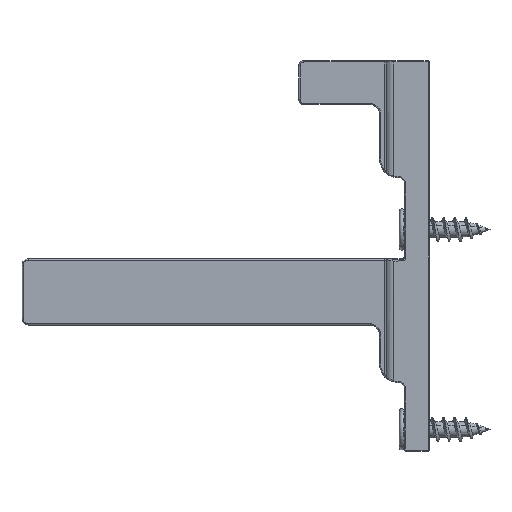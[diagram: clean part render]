
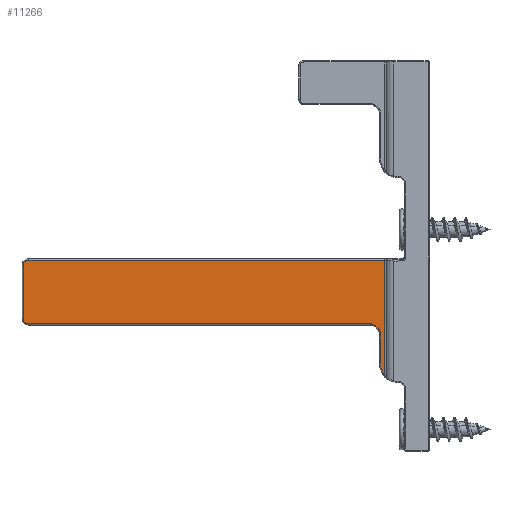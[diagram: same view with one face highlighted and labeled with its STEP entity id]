
A CAD part, left-side view. The second image highlights one B-rep face of the part: STEP entity #11266.
In plain terms, the highlighted planar face has unit normal (-1, 0, 0).
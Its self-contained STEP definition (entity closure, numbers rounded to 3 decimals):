
#92 = CARTESIAN_POINT ( 'NONE',  ( -2.55, 7.8, 62.5 ) ) ;
#134 = DIRECTION ( 'NONE',  ( 0., -1., 0. ) ) ;
#144 = CARTESIAN_POINT ( 'NONE',  ( -2.55, 9.414, 19.2 ) ) ;
#175 = DIRECTION ( 'NONE',  ( 0., 0., -1. ) ) ;
#249 = EDGE_CURVE ( 'NONE', #6907, #2058, #11223, .T. ) ;
#293 = CARTESIAN_POINT ( 'NONE',  ( -2.55, 64.2, 21.2 ) ) ;
#411 = DIRECTION ( 'NONE',  ( 1., 0., 0. ) ) ;
#500 = DIRECTION ( 'NONE',  ( 0., 0., -1. ) ) ;
#695 = CIRCLE ( 'NONE', #7853, 1.2 ) ;
#733 = VECTOR ( 'NONE', #7161, 1000. ) ;
#737 = DIRECTION ( 'NONE',  ( 1., 0., 0. ) ) ;
#758 = VERTEX_POINT ( 'NONE', #8490 ) ;
#767 = EDGE_CURVE ( 'NONE', #1527, #10266, #9592, .T. ) ;
#969 = LINE ( 'NONE', #5752, #4715 ) ;
#1010 = ORIENTED_EDGE ( 'NONE', *, *, #4482, .T. ) ;
#1074 = EDGE_CURVE ( 'NONE', #10266, #4491, #3491, .T. ) ;
#1223 = DIRECTION ( 'NONE',  ( 0., 0., -1. ) ) ;
#1272 = VERTEX_POINT ( 'NONE', #5662 ) ;
#1337 = ORIENTED_EDGE ( 'NONE', *, *, #10832, .T. ) ;
#1382 = EDGE_LOOP ( 'NONE', ( #1488, #4516, #2773, #1672, #5507, #8042, #1337, #1010, #10652, #4470, #11483 ) ) ;
#1488 = ORIENTED_EDGE ( 'NONE', *, *, #6233, .T. ) ;
#1527 = VERTEX_POINT ( 'NONE', #4229 ) ;
#1672 = ORIENTED_EDGE ( 'NONE', *, *, #8587, .T. ) ;
#2058 = VERTEX_POINT ( 'NONE', #9940 ) ;
#2205 = AXIS2_PLACEMENT_3D ( 'NONE', #293, #6779, #1223 ) ;
#2498 = EDGE_CURVE ( 'NONE', #3802, #4017, #11619, .T. ) ;
#2551 = PLANE ( 'NONE',  #5678 ) ;
#2580 = CARTESIAN_POINT ( 'NONE',  ( -2.55, 7.8, 18.786 ) ) ;
#2773 = ORIENTED_EDGE ( 'NONE', *, *, #249, .F. ) ;
#3211 = CARTESIAN_POINT ( 'NONE',  ( -2.55, 65., 21.2 ) ) ;
#3491 = LINE ( 'NONE', #7176, #733 ) ;
#3700 = DIRECTION ( 'NONE',  ( -1., 0., 0. ) ) ;
#3802 = VERTEX_POINT ( 'NONE', #10481 ) ;
#3986 = DIRECTION ( 'NONE',  ( -1., 0., 0. ) ) ;
#4003 = DIRECTION ( 'NONE',  ( 0., 0., -1. ) ) ;
#4017 = VERTEX_POINT ( 'NONE', #2580 ) ;
#4229 = CARTESIAN_POINT ( 'NONE',  ( -2.55, 64.2, 30.6 ) ) ;
#4270 = VECTOR ( 'NONE', #175, 1000. ) ;
#4329 = EDGE_CURVE ( 'NONE', #1272, #2058, #6338, .T. ) ;
#4404 = AXIS2_PLACEMENT_3D ( 'NONE', #8998, #8984, #8956 ) ;
#4470 = ORIENTED_EDGE ( 'NONE', *, *, #10187, .T. ) ;
#4482 = EDGE_CURVE ( 'NONE', #8580, #9411, #7360, .T. ) ;
#4491 = VERTEX_POINT ( 'NONE', #3211 ) ;
#4499 = CARTESIAN_POINT ( 'NONE',  ( -2.55, 5., 14. ) ) ;
#4516 = ORIENTED_EDGE ( 'NONE', *, *, #4329, .T. ) ;
#4653 = DIRECTION ( 'NONE',  ( 0., 0., -1. ) ) ;
#4715 = VECTOR ( 'NONE', #4855, 1000. ) ;
#4806 = EDGE_CURVE ( 'NONE', #9411, #758, #695, .T. ) ;
#4855 = DIRECTION ( 'NONE',  ( 0., 1., 0. ) ) ;
#5084 = CIRCLE ( 'NONE', #2205, 0.8 ) ;
#5233 = CARTESIAN_POINT ( 'NONE',  ( -2.55, 9.414, 20.4 ) ) ;
#5507 = ORIENTED_EDGE ( 'NONE', *, *, #767, .T. ) ;
#5662 = CARTESIAN_POINT ( 'NONE',  ( -2.55, 7.8, 14. ) ) ;
#5678 = AXIS2_PLACEMENT_3D ( 'NONE', #9914, #737, #7230 ) ;
#5752 = CARTESIAN_POINT ( 'NONE',  ( -2.55, 7., 30.6 ) ) ;
#6189 = CARTESIAN_POINT ( 'NONE',  ( -2.55, 65., 29.8 ) ) ;
#6233 = EDGE_CURVE ( 'NONE', #4017, #1272, #7059, .T. ) ;
#6338 = CIRCLE ( 'NONE', #9040, 2.8 ) ;
#6578 = FACE_OUTER_BOUND ( 'NONE', #1382, .T. ) ;
#6779 = DIRECTION ( 'NONE',  ( -1., 0., 0. ) ) ;
#6907 = VERTEX_POINT ( 'NONE', #9271 ) ;
#6918 = CARTESIAN_POINT ( 'NONE',  ( -2.55, 7., 20.4 ) ) ;
#7059 = LINE ( 'NONE', #92, #4270 ) ;
#7084 = CARTESIAN_POINT ( 'NONE',  ( -2.55, 29.009, 40.491 ) ) ;
#7161 = DIRECTION ( 'NONE',  ( 0., 0., -1. ) ) ;
#7176 = CARTESIAN_POINT ( 'NONE',  ( -2.55, 65., 62.5 ) ) ;
#7230 = DIRECTION ( 'NONE',  ( 0., 0., 1. ) ) ;
#7360 = LINE ( 'NONE', #6918, #7961 ) ;
#7853 = AXIS2_PLACEMENT_3D ( 'NONE', #144, #411, #500 ) ;
#7961 = VECTOR ( 'NONE', #134, 1000. ) ;
#8033 = DIRECTION ( 'NONE',  ( 0., -0.707, -0.707 ) ) ;
#8042 = ORIENTED_EDGE ( 'NONE', *, *, #1074, .T. ) ;
#8490 = CARTESIAN_POINT ( 'NONE',  ( -2.55, 8.566, 20.049 ) ) ;
#8580 = VERTEX_POINT ( 'NONE', #11116 ) ;
#8587 = EDGE_CURVE ( 'NONE', #6907, #1527, #969, .T. ) ;
#8956 = DIRECTION ( 'NONE',  ( 0., 0., -1. ) ) ;
#8984 = DIRECTION ( 'NONE',  ( 1., 0., 0. ) ) ;
#8998 = CARTESIAN_POINT ( 'NONE',  ( -2.55, 9., 18.786 ) ) ;
#9040 = AXIS2_PLACEMENT_3D ( 'NONE', #4499, #3700, #4653 ) ;
#9271 = CARTESIAN_POINT ( 'NONE',  ( -2.55, 7.207, 30.6 ) ) ;
#9295 = DIRECTION ( 'NONE',  ( 0., 0., -1. ) ) ;
#9411 = VERTEX_POINT ( 'NONE', #5233 ) ;
#9524 = CARTESIAN_POINT ( 'NONE',  ( -2.55, 7.207, 11.764 ) ) ;
#9538 = AXIS2_PLACEMENT_3D ( 'NONE', #10466, #3986, #4003 ) ;
#9592 = CIRCLE ( 'NONE', #9538, 0.8 ) ;
#9914 = CARTESIAN_POINT ( 'NONE',  ( -2.55, 7., 62.5 ) ) ;
#9940 = CARTESIAN_POINT ( 'NONE',  ( -2.55, 7.207, 12.277 ) ) ;
#10187 = EDGE_CURVE ( 'NONE', #758, #3802, #10913, .T. ) ;
#10266 = VERTEX_POINT ( 'NONE', #6189 ) ;
#10466 = CARTESIAN_POINT ( 'NONE',  ( -2.55, 64.2, 29.8 ) ) ;
#10481 = CARTESIAN_POINT ( 'NONE',  ( -2.55, 8.151, 19.634 ) ) ;
#10652 = ORIENTED_EDGE ( 'NONE', *, *, #4806, .T. ) ;
#10832 = EDGE_CURVE ( 'NONE', #4491, #8580, #5084, .T. ) ;
#10913 = LINE ( 'NONE', #7084, #11421 ) ;
#10985 = VECTOR ( 'NONE', #9295, 1000. ) ;
#11116 = CARTESIAN_POINT ( 'NONE',  ( -2.55, 64.2, 20.4 ) ) ;
#11223 = LINE ( 'NONE', #9524, #10985 ) ;
#11266 = ADVANCED_FACE ( 'NONE', ( #6578 ), #2551, .F. ) ;
#11421 = VECTOR ( 'NONE', #8033, 1000. ) ;
#11483 = ORIENTED_EDGE ( 'NONE', *, *, #2498, .T. ) ;
#11619 = CIRCLE ( 'NONE', #4404, 1.2 ) ;
